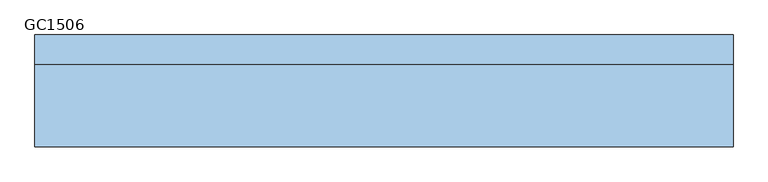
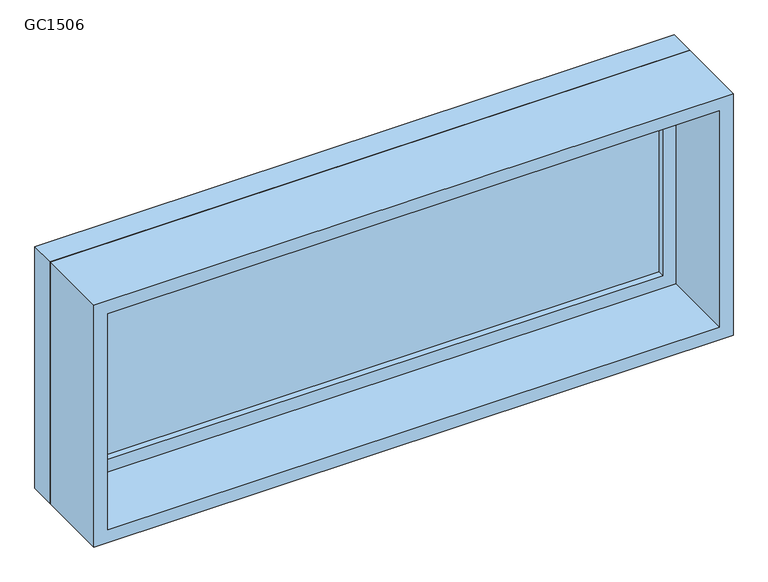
"""IFC4 building model written with IfcOpenShell, lengths in millimetres: window geometry, 固定 : GC1506."""

from ifc_helpers import new_model, si_unit, frame, origin, place, context, project, spatial, polyline, outline, extrude, source, transform, mapped, element, save


def gc1506_fe2e2cb9(model_context):
    return source(origin(), model_context, "Body", "SweptSolid", [
        extrude(outline(polyline([(-687.0, 98.0), (687.0, 98.0), (687.0, 86.0), (-687.0, 86.0), (-687.0, 98.0)])), frame((0.0, 0.0, 978.0), z_axis=(0.0, 0.0, 1.0), x_axis=(1.0, 0.0, 0.0)), (0.0, 0.0, 1.0), 474.0),
        extrude(outline(polyline([(1496.0, -731.0), (934.0, -731.0), (934.0, 731.0), (1496.0, 731.0), (1496.0, -731.0)]), holes=[polyline([(1452.0, -687.0), (1452.0, 687.0), (978.0, 687.0), (978.0, -687.0), (1452.0, -687.0)])]), frame((0.0, 70.0, 0.0), z_axis=(0.0, 1.0, 0.0), x_axis=(0.0, 0.0, 1.0)), (0.0, 0.0, 1.0), 44.0),
        extrude(outline(polyline([(1515.0, -750.0), (915.0, -750.0), (915.0, 750.0), (1515.0, 750.0), (1515.0, -750.0)]), holes=[polyline([(1496.0, -731.0), (1496.0, 731.0), (934.0, 731.0), (934.0, -731.0), (1496.0, -731.0)])]), frame((0.0, 70.0, 0.0), z_axis=(0.0, 1.0, 0.0), x_axis=(0.0, 0.0, 1.0)), (0.0, 0.0, 1.0), 63.0),
        extrude(outline(polyline([(1515.0, -750.0), (915.0, -750.0), (915.0, 750.0), (1515.0, 750.0), (1515.0, -750.0)]), holes=[polyline([(1483.0, -718.0), (1483.0, 718.0), (947.0, 718.0), (947.0, -718.0), (1483.0, -718.0)])]), frame((0.0, -107.0, 0.0), z_axis=(0.0, 1.0, 0.0), x_axis=(0.0, 0.0, 1.0)), (0.0, 0.0, 1.0), 177.0),
    ])


if __name__ == "__main__":
    model = new_model("IFC4")
    model_context = context("Model", 3, world=origin())
    ifc_project = project(units=[si_unit("LENGTHUNIT", "METRE", prefix="MILLI")], contexts=[model_context])
    site = spatial("IfcSite", under=ifc_project)
    building = spatial("IfcBuilding", under=site)
    placement = place(None, origin())
    gc1506_shape = gc1506_fe2e2cb9(model_context)
    element("IfcWindow", 1, ObjectType="固定 : GC1506", at=placement, inside=building, context=model_context, shape_type="MappedRepresentation", body=[
        mapped(gc1506_shape, transform((0.0, 0.0, 0.0), x_axis=(1.0, 0.0, 0.0), y_axis=(0.0, 1.0, 0.0), z_axis=(0.0, 0.0, 1.0))),
    ])
    save(model, "model.ifc")
